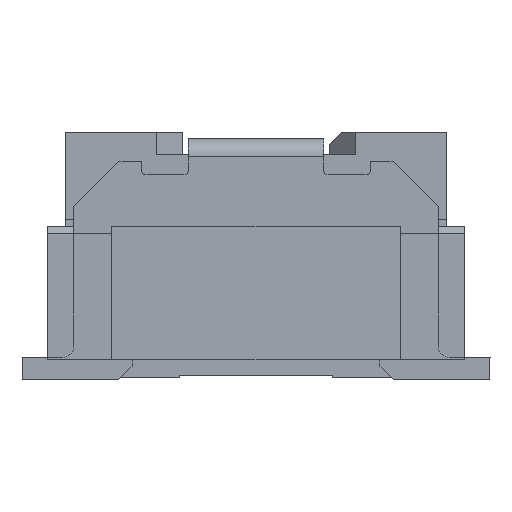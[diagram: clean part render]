
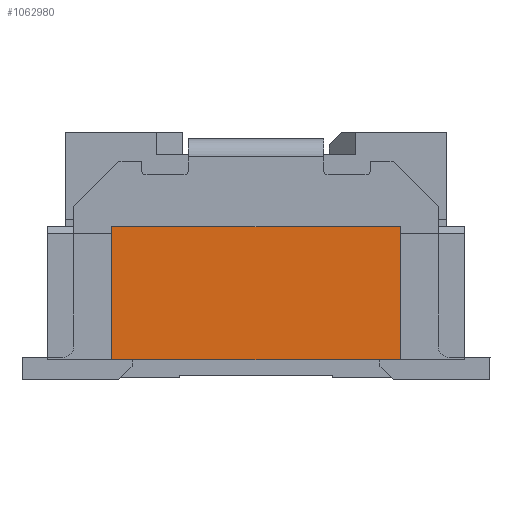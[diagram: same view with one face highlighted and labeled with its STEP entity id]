
A CAD part, left-side view. The second image highlights one B-rep face of the part: STEP entity #1062980.
In plain terms, the highlighted planar face has unit normal (-1, 0, 0).
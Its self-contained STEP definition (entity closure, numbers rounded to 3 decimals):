
#758940=CARTESIAN_POINT('',(-51.893,2.93,
-3.22));
#758950=VERTEX_POINT('',#758940);
#758980=CARTESIAN_POINT('',(-51.893,-0.507,
-3.22));
#758990=DIRECTION('',(0.,-1.,0.));
#759000=VECTOR('',#758990,1.);
#759010=LINE('',#758980,#759000);
#759020=CARTESIAN_POINT('',(-51.893,-0.02,
-3.22));
#759030=VERTEX_POINT('',#759020);
#759040=EDGE_CURVE('',#758950,#759030,#759010,.T.);
#842050=CARTESIAN_POINT('',(-51.893,2.93,
3.18));
#842060=VERTEX_POINT('',#842050);
#842090=CARTESIAN_POINT('',(-51.893,2.93,
-5.031));
#842100=DIRECTION('',(0.,0.,-1.));
#842110=VECTOR('',#842100,1.);
#842120=LINE('',#842090,#842110);
#842130=EDGE_CURVE('',#842060,#758950,#842120,.T.);
#1053890=CARTESIAN_POINT('',(-51.893,-0.02,
3.18));
#1053900=VERTEX_POINT('',#1053890);
#1053930=CARTESIAN_POINT('',(-51.893,-0.507,
3.18));
#1053940=DIRECTION('',(0.,1.,0.));
#1053950=VECTOR('',#1053940,1.);
#1053960=LINE('',#1053930,#1053950);
#1053970=EDGE_CURVE('',#1053900,#842060,#1053960,.T.);
#1062820=CARTESIAN_POINT('',(-51.893,2.93,
4.88));
#1062830=DIRECTION('',(-1.,0.,0.));
#1062840=DIRECTION('',(0.,1.,0.));
#1062850=AXIS2_PLACEMENT_3D('',#1062820,#1062830,#1062840);
#1062860=PLANE('',#1062850);
#1062870=CARTESIAN_POINT('',(-51.893,-0.02,
-5.031));
#1062880=DIRECTION('',(0.,0.,-1.));
#1062890=VECTOR('',#1062880,1.);
#1062900=LINE('',#1062870,#1062890);
#1062910=EDGE_CURVE('',#1053900,#759030,#1062900,.T.);
#1062920=ORIENTED_EDGE('',*,*,#1062910,.F.);
#1062930=ORIENTED_EDGE('',*,*,#759040,.T.);
#1062940=ORIENTED_EDGE('',*,*,#842130,.T.);
#1062950=ORIENTED_EDGE('',*,*,#1053970,.T.);
#1062960=EDGE_LOOP('',(#1062950,#1062940,#1062930,#1062920));
#1062970=FACE_OUTER_BOUND('',#1062960,.T.);
#1062980=ADVANCED_FACE('',(#1062970),#1062860,.T.);
